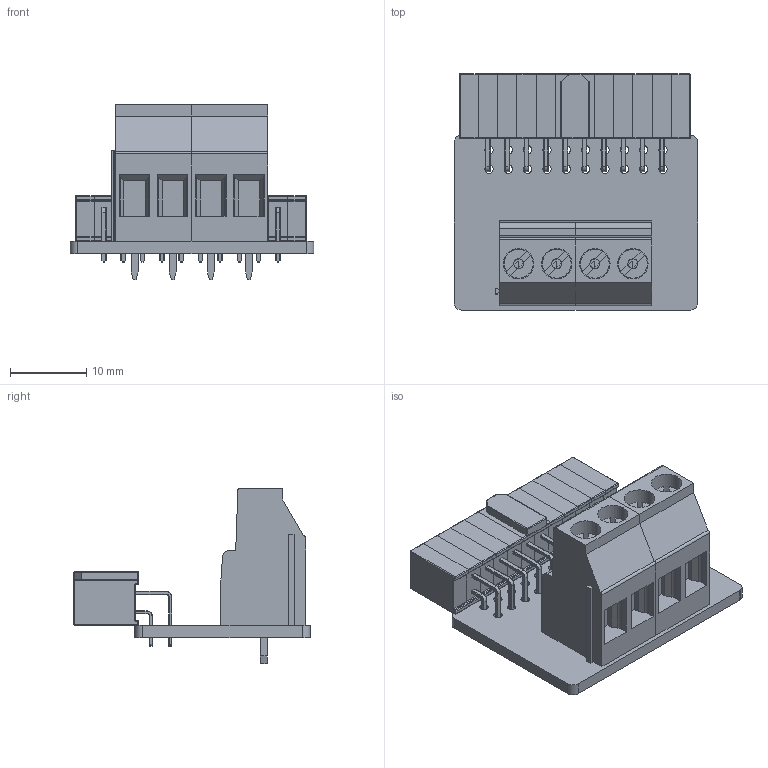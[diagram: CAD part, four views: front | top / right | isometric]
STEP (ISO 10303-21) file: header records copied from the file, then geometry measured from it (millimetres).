
FILE_DESCRIPTION(/* description */ (''),/* implementation_level */ '2;1');
FILE_NAME(/* name */ '//tsclient/home/tmp/PBULD00239.step',/* time_stamp */ '2022-02-24T11:49:00-07:00',/* author */ (''),/* organization */ (''),/* preprocessor_version */ 'ST-DEVELOPER v18.1',/* originating_system */ 'Autodesk Translation Framework v10.13.0.1454',/* authorisation */ '');
FILE_SCHEMA (('AUTOMOTIVE_DESIGN { 1 0 10303 214 3 1 1 }'));
Length unit declared in the file: millimetre
Products named in the file (9): PBULD00239; Board; Packages; HDRRAR20W64P254_2X10_3578X915X920B-B; end; body section with RA gold pins; Polarizing Key; TERMINAL1X2_5MM; mkds_3-2
Assembly tree (19 placements, depth 4):
  PBULD00239
    Board
    Packages
      HDRRAR20W64P254_2X10_3578X915X920B-B
        body section with RA gold pins  x10
        end  x2
        Polarizing Key
      TERMINAL1X2_5MM  x2
        mkds_3-2
Bounding box: 32 x 31 x 23 mm (x, y, z)
Volume: 5714.9 mm3; surface area: 6967 mm2
Topology: 36 solids, 36 shells, 2317 faces, 5377 edges, 2920 vertices
Faces by surface type: cylinder 1014, plane 761, sphere 258, bspline 200, torus 84
Full cylindrical faces by diameter (mm): 0.457 x2, 1.105 x20, 1.3 x4, 1.5 x4, 3.8 x4, 4 x4
Entity records: 13321 total; most frequent: CARTESIAN_POINT 2565, DIRECTION 2288, ORIENTED_EDGE 2048, EDGE_CURVE 1024, AXIS2_PLACEMENT_3D 833, LINE 622, VECTOR 622, VERTEX_POINT 614
